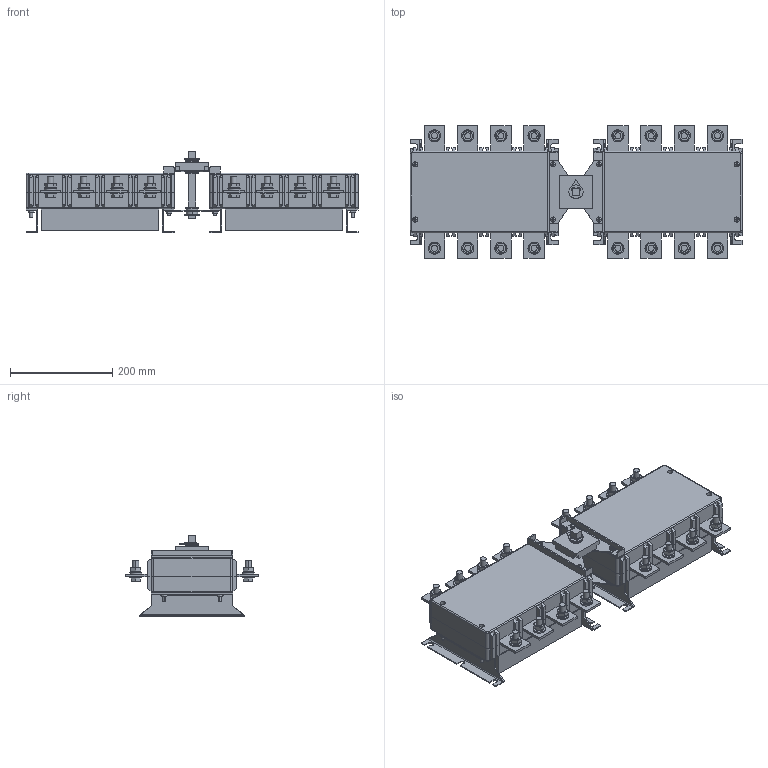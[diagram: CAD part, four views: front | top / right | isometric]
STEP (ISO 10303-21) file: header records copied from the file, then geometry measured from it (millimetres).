
FILE_DESCRIPTION((''),'2;1');
FILE_NAME('630-4S_ASM','2021-05-07T',('wangpeng'),(''),'PRO/ENGINEER BY PARAMETRIC TECHNOLOGY CORPORATION, 2009460','PRO/ENGINEER BY PARAMETRIC TECHNOLOGY CORPORATION, 2009460','');
FILE_SCHEMA(('AUTOMOTIVE_DESIGN { 1 0 10303 214 1 1 1 1 }'));
Length unit declared in the file: millimetre
Products named in the file (21): SB-630-4S; ZB-630-4S; CT-630-4S; XB-630-4S; YB-630-4S; ZCB-630-4S; DB-630-4S; PDQ12; LSM12; TDQ12; LMM12; PDQ6; 00LSM6; 0LSM6; LMM6; ZSJNH40; FKSNH40; ZSJTNH40; ZZ-630-4S; DQM8; 630-4S_ASM
Assembly tree (150 placements, depth 2):
  630-4S_ASM
    SB-630-4S  x2
    ZB-630-4S  x2
    CT-630-4S  x8
    XB-630-4S  x2
    YB-630-4S  x2
    ZCB-630-4S  x2
    DB-630-4S  x4
    PDQ12  x32
    LSM12  x16
    TDQ12  x16
    LMM12  x16
    PDQ6  x16
    00LSM6  x4
    0LSM6  x12
    LMM6  x8
    ZSJNH40
    FKSNH40  x3
    ZSJTNH40
    ZZ-630-4S
    DQM8  x2
Bounding box: 650 x 260 x 160.5 mm (x, y, z)
Volume: 10342199.9 mm3; surface area: 1301170.9 mm2
Topology: 150 solids, 150 shells, 2852 faces, 7013 edges, 4524 vertices
Faces by surface type: plane 1657, cylinder 731, cone 416, sphere 32, torus 16
Entity records: 24235 total; most frequent: CARTESIAN_POINT 4443, DIRECTION 3787, ORIENTED_EDGE 3576, EDGE_CURVE 1788, VECTOR 1329, LINE 1329, AXIS2_PLACEMENT_3D 1229, VERTEX_POINT 1175
